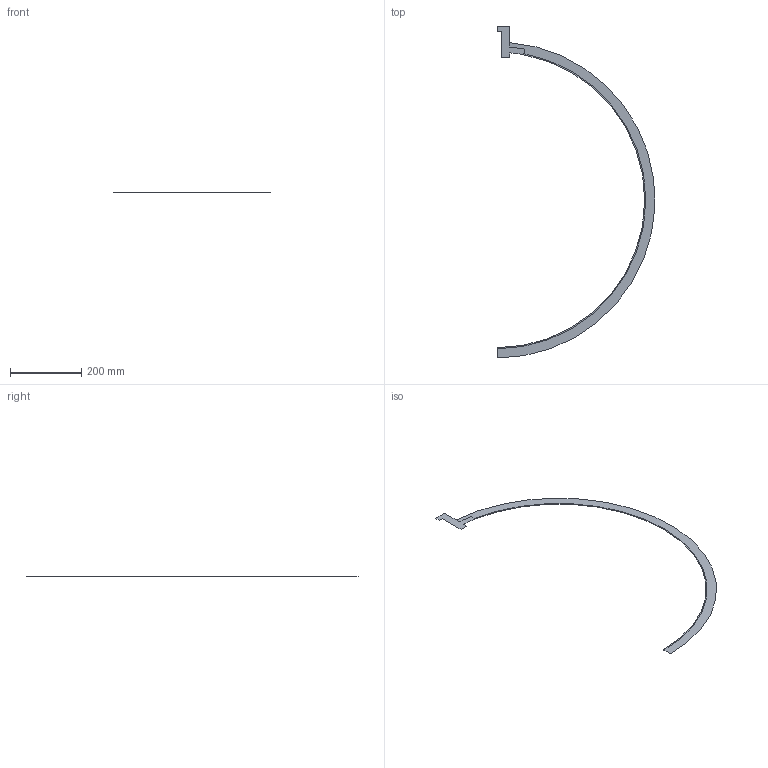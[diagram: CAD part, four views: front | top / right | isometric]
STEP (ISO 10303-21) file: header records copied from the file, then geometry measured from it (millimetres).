
FILE_DESCRIPTION(('Open CASCADE Model'),'2;1');
FILE_NAME('Open CASCADE Shape Model','2026-10-19T02:06:55',('Author'),( 'Open CASCADE'),'Open CASCADE STEP processor 7.9','Open CASCADE 7.9' ,'Unknown');
FILE_SCHEMA(('AUTOMOTIVE_DESIGN { 1 0 10303 214 1 1 1 1 }'));
Length unit declared in the file: millimetre
Products named in the file (4): Open CASCADE STEP translator 7.9 1; Open CASCADE STEP translator 7.9 1.1; Open CASCADE STEP translator 7.9 1.2; Open CASCADE STEP translator 7.9 1.3
Assembly tree (3 placements, depth 2):
  Open CASCADE STEP translator 7.9 1
    Open CASCADE STEP translator 7.9 1.1
    Open CASCADE STEP translator 7.9 1.2
    Open CASCADE STEP translator 7.9 1.3
Bounding box: 443.65 x 933 x 0 mm (x, y, z)
Surface area: 40341 mm2 (no closed solid volume)
Topology: 0 solids, 3 shells, 3 faces, 22 edges, 22 vertices
Faces by surface type: plane 3
Entity records: 440 total; most frequent: CARTESIAN_POINT 79, DIRECTION 64, LINE 30, VECTOR 30, ORIENTED_EDGE 22, EDGE_CURVE 22, VERTEX_POINT 22, SURFACE_CURVE 22
